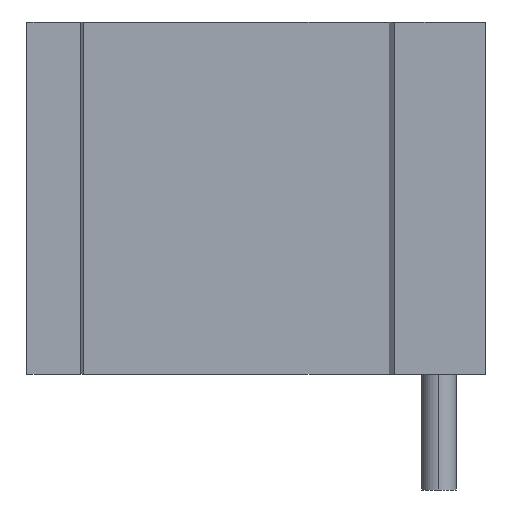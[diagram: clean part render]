
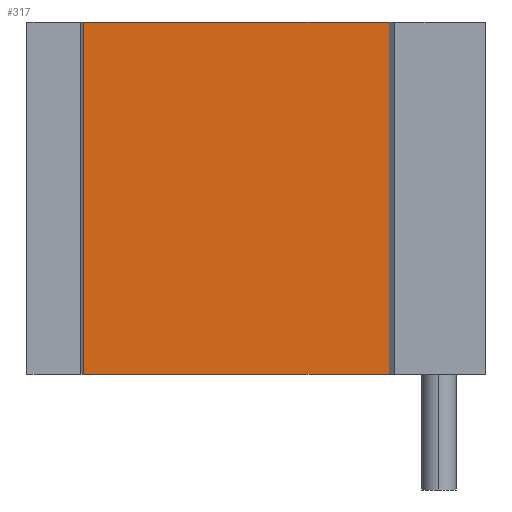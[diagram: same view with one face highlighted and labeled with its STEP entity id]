
A CAD part, left-side view. The second image highlights one B-rep face of the part: STEP entity #317.
In plain terms, the highlighted planar face has unit normal (-1, 0, 0).
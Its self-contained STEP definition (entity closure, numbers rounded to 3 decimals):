
#34 = CARTESIAN_POINT ( 'NONE',  ( -3.8, -9.795, 61. ) ) ;
#74 = PLANE ( 'NONE',  #964 ) ;
#76 = DIRECTION ( 'NONE',  ( 1., 0., 0. ) ) ;
#175 = DIRECTION ( 'NONE',  ( 0., -1., 0. ) ) ;
#212 = DIRECTION ( 'NONE',  ( 0., 0., -1. ) ) ;
#229 = CARTESIAN_POINT ( 'NONE',  ( -3.8, -62.7, 61. ) ) ;
#250 = CARTESIAN_POINT ( 'NONE',  ( -3.8, -62.7, 61. ) ) ;
#253 = LINE ( 'NONE', #250, #1086 ) ;
#269 = FACE_OUTER_BOUND ( 'NONE', #1040, .T. ) ;
#274 = VERTEX_POINT ( 'NONE', #385 ) ;
#282 = CARTESIAN_POINT ( 'NONE',  ( -3.8, -9.795, 61. ) ) ;
#317 = ADVANCED_FACE ( 'NONE', ( #269 ), #74, .F. ) ;
#385 = CARTESIAN_POINT ( 'NONE',  ( -3.8, -9.795, 0. ) ) ;
#390 = VERTEX_POINT ( 'NONE', #993 ) ;
#391 = VERTEX_POINT ( 'NONE', #575 ) ;
#424 = VECTOR ( 'NONE', #212, 1000. ) ;
#479 = EDGE_CURVE ( 'NONE', #390, #391, #253, .T. ) ;
#485 = ORIENTED_EDGE ( 'NONE', *, *, #479, .F. ) ;
#497 = VECTOR ( 'NONE', #175, 1000. ) ;
#504 = DIRECTION ( 'NONE',  ( 0., 1., 0. ) ) ;
#507 = CARTESIAN_POINT ( 'NONE',  ( -3.8, -62.7, 61. ) ) ;
#575 = CARTESIAN_POINT ( 'NONE',  ( -3.8, -62.7, 0. ) ) ;
#638 = CARTESIAN_POINT ( 'NONE',  ( -3.8, -62.7, 0. ) ) ;
#647 = EDGE_CURVE ( 'NONE', #664, #274, #789, .T. ) ;
#648 = LINE ( 'NONE', #507, #497 ) ;
#650 = ORIENTED_EDGE ( 'NONE', *, *, #1013, .F. ) ;
#664 = VERTEX_POINT ( 'NONE', #34 ) ;
#678 = DIRECTION ( 'NONE',  ( 0., 0., -1. ) ) ;
#704 = EDGE_CURVE ( 'NONE', #274, #391, #1091, .T. ) ;
#774 = ORIENTED_EDGE ( 'NONE', *, *, #704, .T. ) ;
#789 = LINE ( 'NONE', #282, #424 ) ;
#800 = DIRECTION ( 'NONE',  ( 0., -1., 0. ) ) ;
#888 = ORIENTED_EDGE ( 'NONE', *, *, #647, .T. ) ;
#914 = VECTOR ( 'NONE', #800, 1000. ) ;
#964 = AXIS2_PLACEMENT_3D ( 'NONE', #229, #76, #504 ) ;
#993 = CARTESIAN_POINT ( 'NONE',  ( -3.8, -62.7, 61. ) ) ;
#1013 = EDGE_CURVE ( 'NONE', #664, #390, #648, .T. ) ;
#1040 = EDGE_LOOP ( 'NONE', ( #774, #485, #650, #888 ) ) ;
#1086 = VECTOR ( 'NONE', #678, 1000. ) ;
#1091 = LINE ( 'NONE', #638, #914 ) ;
